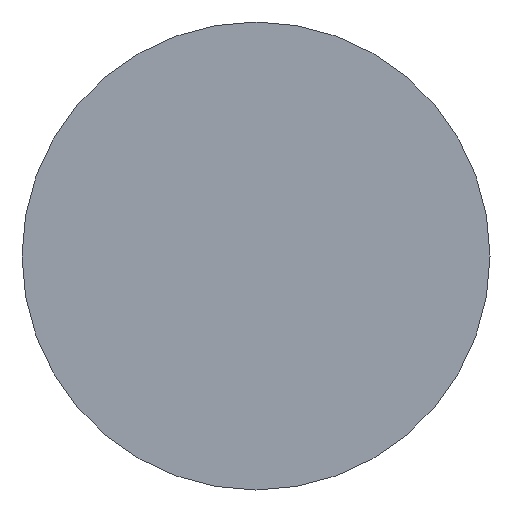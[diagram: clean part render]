
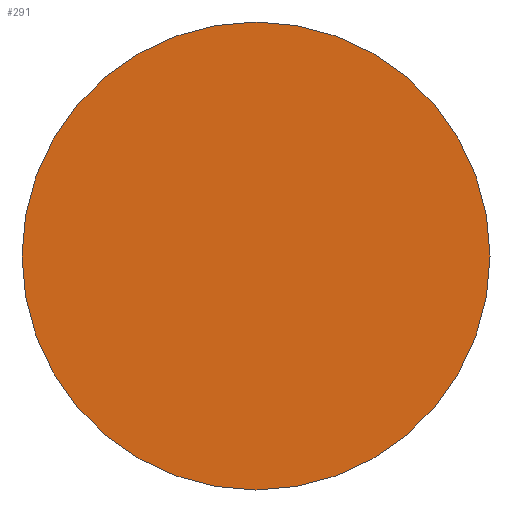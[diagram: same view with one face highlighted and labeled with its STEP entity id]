
A CAD part, left-side view. The second image highlights one B-rep face of the part: STEP entity #291.
In plain terms, the highlighted planar face has unit normal (-1, 0, 0).
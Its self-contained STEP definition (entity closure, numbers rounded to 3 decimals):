
#26 = PLANE ( 'NONE',  #174 ) ;
#27 = DIRECTION ( 'NONE',  ( 0., 0., 1. ) ) ;
#29 = CARTESIAN_POINT ( 'NONE',  ( 0., 0., 0. ) ) ;
#53 = DIRECTION ( 'NONE',  ( 0., 0., 1. ) ) ;
#68 = CIRCLE ( 'NONE', #226, 5. ) ;
#81 = CARTESIAN_POINT ( 'NONE',  ( 0., 0., 0. ) ) ;
#116 = CIRCLE ( 'NONE', #256, 5. ) ;
#121 = DIRECTION ( 'NONE',  ( 1., 0., 0. ) ) ;
#128 = CARTESIAN_POINT ( 'NONE',  ( 0., 0., 5. ) ) ;
#129 = DIRECTION ( 'NONE',  ( -1., 0., 0. ) ) ;
#132 = ORIENTED_EDGE ( 'NONE', *, *, #261, .T. ) ;
#145 = VERTEX_POINT ( 'NONE', #275 ) ;
#174 = AXIS2_PLACEMENT_3D ( 'NONE', #29, #121, #250 ) ;
#209 = DIRECTION ( 'NONE',  ( -1., 0., 0. ) ) ;
#224 = ORIENTED_EDGE ( 'NONE', *, *, #232, .T. ) ;
#226 = AXIS2_PLACEMENT_3D ( 'NONE', #81, #209, #53 ) ;
#232 = EDGE_CURVE ( 'NONE', #287, #145, #116, .T. ) ;
#239 = CARTESIAN_POINT ( 'NONE',  ( 0., 0., 0. ) ) ;
#246 = EDGE_LOOP ( 'NONE', ( #224, #132 ) ) ;
#250 = DIRECTION ( 'NONE',  ( 0., 0., -1. ) ) ;
#256 = AXIS2_PLACEMENT_3D ( 'NONE', #239, #129, #27 ) ;
#261 = EDGE_CURVE ( 'NONE', #145, #287, #68, .T. ) ;
#275 = CARTESIAN_POINT ( 'NONE',  ( 0., 0., -5. ) ) ;
#284 = FACE_OUTER_BOUND ( 'NONE', #246, .T. ) ;
#287 = VERTEX_POINT ( 'NONE', #128 ) ;
#291 = ADVANCED_FACE ( 'NONE', ( #284 ), #26, .F. ) ;
